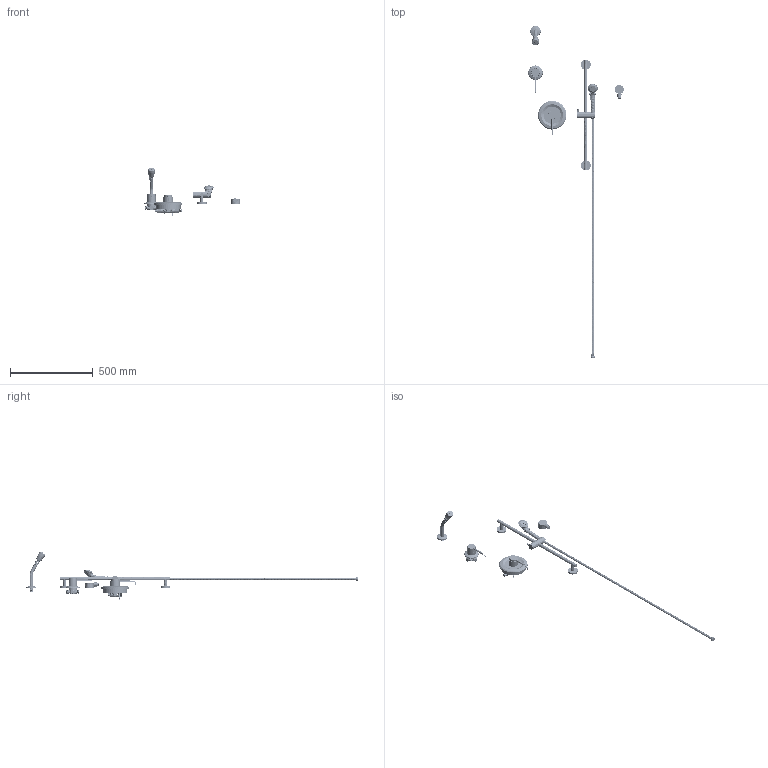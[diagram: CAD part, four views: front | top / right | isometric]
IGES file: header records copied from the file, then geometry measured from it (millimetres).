
Start section:  PTC IGES file: sh-pb1-13-031_REV070122.igs
Global section: file name: sh-pb1-13-031_REV070122.igs; native system: Creo Parametric by PTC Inc.; preprocessor: 2021184; author: rodjo; organization: Unknown; date: 20220701.164901; units: inch
Bounding box: 578.74 x 2010.04 x 295.6 mm (x, y, z)
Surface area: 525868.7 mm2 (no closed solid volume)
Topology: 0 solids, 0 shells, 1729 faces, 14987 edges, 20716 vertices
Faces by surface type: revolution 959, bspline 769, extrusion 1
